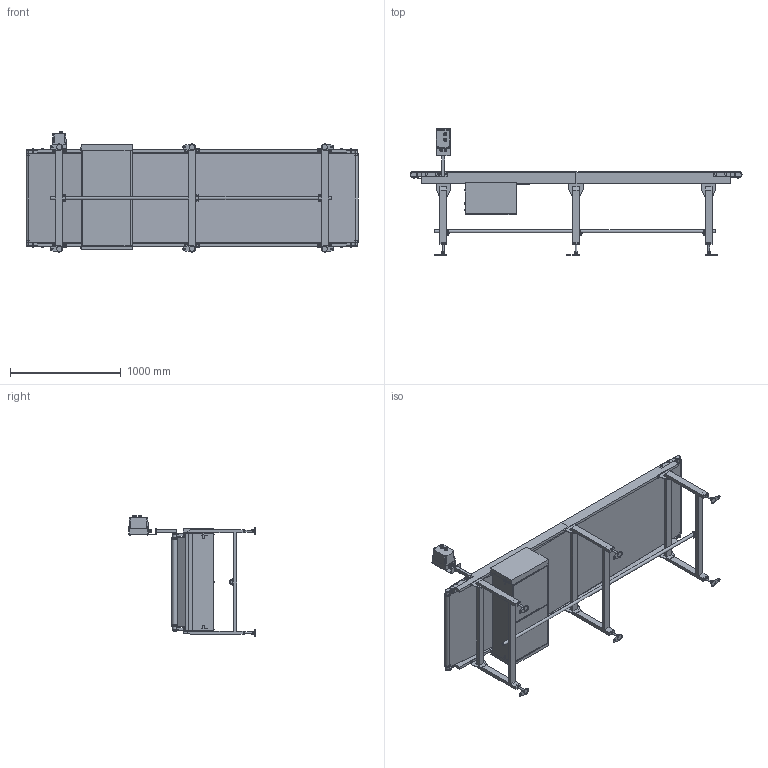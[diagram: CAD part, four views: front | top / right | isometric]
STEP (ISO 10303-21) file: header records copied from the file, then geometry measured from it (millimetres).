
FILE_DESCRIPTION( (''), '2;1');
FILE_NAME ('WEB-FB3C-340-800-300-K-30.stp','2025-10-16T10:44:08',(''),(''),'spGate 20.6.2 (****-****-****-****)','','');
FILE_SCHEMA (('AUTOMOTIVE_DESIGN'));
Length unit declared in the file: millimetre
Products named in the file (52): WEB-FB3C-340-800-300-K-30; TEMP_X_T-prt0; TEMP_X_T-prt1; TEMP_X_T-prt2; TEMP_X_T-prt3; TEMP_X_T-prt4; TEMP_X_T-prt5; TEMP_X_T-prt6; TEMP_X_T-prt7; TEMP_X_T-prt8; TEMP_X_T-prt9; TEMP_X_T-prt10; TEMP_X_T-prt11; TEMP_X_T-prt12; TEMP_X_T-prt13; TEMP_X_T-prt14; TEMP_X_T-prt15; TEMP_X_T-prt16; TEMP_X_T-prt17; TEMP_X_T-prt18; TEMP_X_T-prt19; TEMP_X_T-prt20; TEMP_X_T-prt21; TEMP_X_T-prt22; TEMP_X_T-prt23; TEMP_X_T-prt24; TEMP_X_T-prt25; TEMP_X_T-prt26; TEMP_X_T-prt27; TEMP_X_T-prt28; TEMP_X_T-prt29; TEMP_X_T-prt30; TEMP_X_T-prt31; TEMP_X_T-prt32; TEMP_X_T-prt33; TEMP_X_T-prt34; TEMP_X_T-prt35; TEMP_X_T-prt36; TEMP_X_T-prt37; TEMP_X_T-prt38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
Assembly tree (51 placements, depth 2):
  WEB-FB3C-340-800-300-K-30
    TEMP_X_T-prt0
    TEMP_X_T-prt1
    TEMP_X_T-prt2
    TEMP_X_T-prt3
    TEMP_X_T-prt4
    TEMP_X_T-prt5
    TEMP_X_T-prt6
    TEMP_X_T-prt7
    TEMP_X_T-prt8
    TEMP_X_T-prt9
    TEMP_X_T-prt10
    TEMP_X_T-prt11
    TEMP_X_T-prt12
    TEMP_X_T-prt13
    TEMP_X_T-prt14
    TEMP_X_T-prt15
    TEMP_X_T-prt16
    TEMP_X_T-prt17
    TEMP_X_T-prt18
    TEMP_X_T-prt19
    TEMP_X_T-prt20
    TEMP_X_T-prt21
    TEMP_X_T-prt22
    TEMP_X_T-prt23
    TEMP_X_T-prt24
    TEMP_X_T-prt25
    TEMP_X_T-prt26
    TEMP_X_T-prt27
    TEMP_X_T-prt28
    TEMP_X_T-prt29
    TEMP_X_T-prt30
    TEMP_X_T-prt31
    TEMP_X_T-prt32
    TEMP_X_T-prt33
    TEMP_X_T-prt34
    TEMP_X_T-prt35
    TEMP_X_T-prt36
    TEMP_X_T-prt37
    TEMP_X_T-prt38
    TEMP_X_T-prt39
    TEMP_X_T-prt40
    TEMP_X_T-prt41
    TEMP_X_T-prt42
    TEMP_X_T-prt43
    TEMP_X_T-prt44
    TEMP_X_T-prt45
    TEMP_X_T-prt46
    TEMP_X_T-prt47
    TEMP_X_T-prt48
    TEMP_X_T-prt49
    TEMP_X_T-prt50
Bounding box: 3002.36 x 1141 x 1087.5 mm (x, y, z)
Volume: 248404568.6 mm3; surface area: 22056995.9 mm2
Topology: 51 solids, 55 shells, 1445 faces, 3487 edges, 2327 vertices
Faces by surface type: plane 1178, cylinder 206, bspline 61
Full cylindrical faces by diameter (mm): 6 x20, 7 x8, 8 x12, 8.5 x4, 10 x2, 11.8 x7, 12 x4, 12.2 x16, 12.3 x2, 13 x6, 15 x4, 15.4 x12, 16 x12, 17 x18, 18.4 x8, 19 x2, 19.4 x4, 20 x4, 20.6 x2, 22 x2, 24 x4, 27.2 x1, 28 x2, 29 x2, 48.6 x2
Entity records: 74284 total; most frequent: CARTESIAN_POINT 10049, DIRECTION 6999, ORIENTED_EDGE 6970, COLOUR_RGB 4981, PRESENTATION_STYLE_ASSIGNMENT 4981, STYLED_ITEM 4981, EDGE_CURVE 3485, DRAUGHTING_PRE_DEFINED_CURVE_FONT 3485
